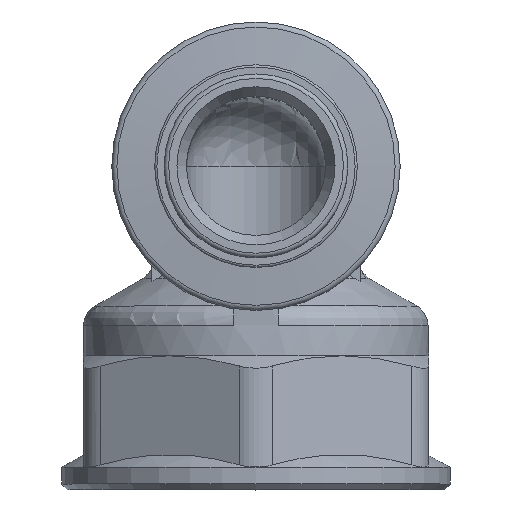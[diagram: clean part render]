
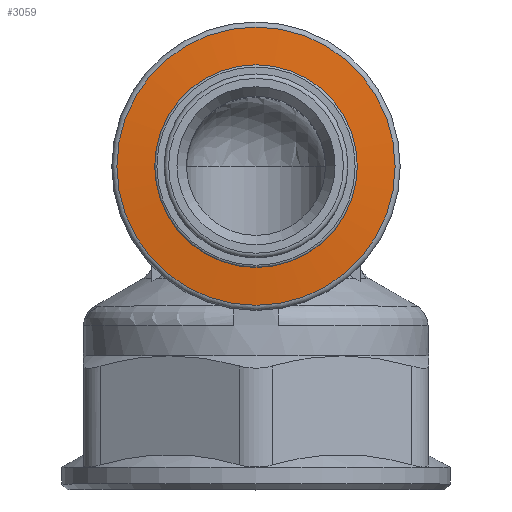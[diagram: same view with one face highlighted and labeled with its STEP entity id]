
A CAD part, top view. The second image highlights one B-rep face of the part: STEP entity #3059.
In plain terms, the highlighted conical face has half-angle 85 degrees and reference radius 10.628 mm.
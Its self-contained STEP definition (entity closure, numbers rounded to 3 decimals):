
#3059=ADVANCED_FACE('',(#5637,#5639),#5641,.T.);
#5637=FACE_OUTER_BOUND('',#5638,.T.);
#5638=EDGE_LOOP('',(#7967));
#5639=FACE_OUTER_BOUND('',#5640,.T.);
#5640=EDGE_LOOP('',(#7968));
#5641=CONICAL_SURFACE('',#5642,10.628,1.484);
#5642=AXIS2_PLACEMENT_3D('',#5643,#5644,#5645);
#5643=CARTESIAN_POINT('',(0.,0.,27.603));
#5644=DIRECTION('',(0.,0.,-1.));
#5645=DIRECTION('',(0.,-1.,0.));
#7967=ORIENTED_EDGE('',*,*,#8880,.T.);
#7968=ORIENTED_EDGE('',*,*,#8882,.T.);
#8880=EDGE_CURVE('',#10374,#10374,#10375,.T.);
#8882=EDGE_CURVE('',#10378,#10378,#10379,.F.);
#10374=VERTEX_POINT('',#15514);
#10375=CIRCLE('',#15515,12.494);
#10378=VERTEX_POINT('',#15524);
#10379=CIRCLE('',#15525,8.763);
#15514=CARTESIAN_POINT('',(0.,12.494,27.44));
#15515=AXIS2_PLACEMENT_3D('',#15516,#15517,#15518);
#15516=CARTESIAN_POINT('',(0.,0.,27.44));
#15517=DIRECTION('',(0.,0.,1.));
#15518=DIRECTION('',(0.,1.,0.));
#15524=CARTESIAN_POINT('',(0.,8.763,27.766));
#15525=AXIS2_PLACEMENT_3D('',#15526,#15527,#15528);
#15526=CARTESIAN_POINT('',(0.,0.,27.766));
#15527=DIRECTION('',(0.,0.,1.));
#15528=DIRECTION('',(0.,1.,0.));
